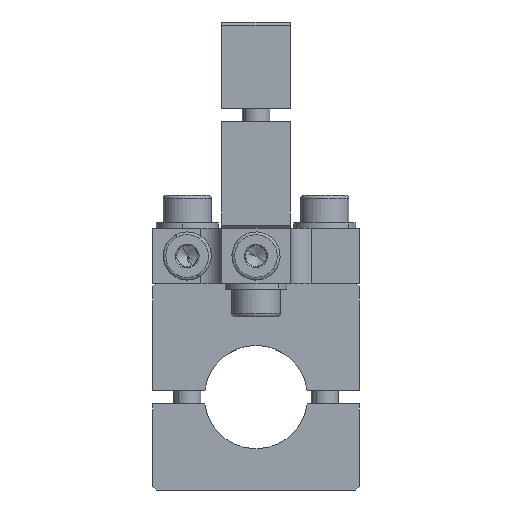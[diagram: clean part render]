
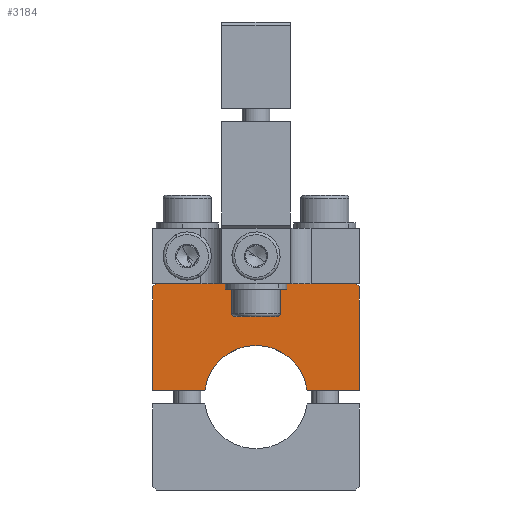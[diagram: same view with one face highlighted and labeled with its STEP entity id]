
A CAD part, front view. The second image highlights one B-rep face of the part: STEP entity #3184.
In plain terms, the highlighted planar face has unit normal (0, -1, 0) as drawn and (0, 0, -1) by its records, which use the part's own axes.
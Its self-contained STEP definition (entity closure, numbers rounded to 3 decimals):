
#8 = CARTESIAN_POINT ( 'NONE',  ( 15., -16., -5. ) ) ;
#31 = DIRECTION ( 'NONE',  ( -1., 0., 0. ) ) ;
#162 = CARTESIAN_POINT ( 'NONE',  ( -7.433, -1., -5. ) ) ;
#174 = DIRECTION ( 'NONE',  ( -0.707, -0.707, 0. ) ) ;
#241 = CARTESIAN_POINT ( 'NONE',  ( 0., 0., -5. ) ) ;
#282 = DIRECTION ( 'NONE',  ( 1., 0., 0. ) ) ;
#306 = DIRECTION ( 'NONE',  ( 0., 0., -1. ) ) ;
#574 = VECTOR ( 'NONE', #31, 1000. ) ;
#608 = AXIS2_PLACEMENT_3D ( 'NONE', #241, #306, #282 ) ;
#960 = AXIS2_PLACEMENT_3D ( 'NONE', #2080, #2071, #2070 ) ;
#1347 = EDGE_CURVE ( 'NONE', #3758, #3886, #4098, .T. ) ;
#1477 = EDGE_CURVE ( 'NONE', #3886, #3612, #2449, .T. ) ;
#1483 = EDGE_CURVE ( 'NONE', #3788, #3864, #4136, .T. ) ;
#1505 = EDGE_CURVE ( 'NONE', #3658, #3758, #4132, .T. ) ;
#1512 = EDGE_CURVE ( 'NONE', #3852, #3864, #4143, .T. ) ;
#1576 = EDGE_CURVE ( 'NONE', #3788, #3658, #4195, .T. ) ;
#1602 = EDGE_CURVE ( 'NONE', #3852, #3797, #4239, .T. ) ;
#1607 = EDGE_CURVE ( 'NONE', #3612, #3797, #4243, .T. ) ;
#1726 = CARTESIAN_POINT ( 'NONE',  ( 15., -1., -5. ) ) ;
#1888 = CARTESIAN_POINT ( 'NONE',  ( -15., -1., -5. ) ) ;
#2070 = DIRECTION ( 'NONE',  ( 1., 0., 0. ) ) ;
#2071 = DIRECTION ( 'NONE',  ( 0., 0., 1. ) ) ;
#2076 = PLANE ( 'NONE',  #960 ) ;
#2080 = CARTESIAN_POINT ( 'NONE',  ( 0., 0., -5. ) ) ;
#2449 = LINE ( 'NONE', #162, #574 ) ;
#2486 = DIRECTION ( 'NONE',  ( -1., 0., 0. ) ) ;
#2565 = DIRECTION ( 'NONE',  ( 0., -1., 0. ) ) ;
#2582 = DIRECTION ( 'NONE',  ( 0., 1., 0. ) ) ;
#2585 = CARTESIAN_POINT ( 'NONE',  ( 15., -1., -5. ) ) ;
#2687 = DIRECTION ( 'NONE',  ( -0.707, 0.707, 0. ) ) ;
#2688 = CARTESIAN_POINT ( 'NONE',  ( -14.5, -16.5, -5. ) ) ;
#2748 = CARTESIAN_POINT ( 'NONE',  ( -15., -1., -5. ) ) ;
#2798 = CARTESIAN_POINT ( 'NONE',  ( -15., -16.5, -5. ) ) ;
#2869 = DIRECTION ( 'NONE',  ( 1., 0., 0. ) ) ;
#2887 = CARTESIAN_POINT ( 'NONE',  ( 7.433, -1., -5. ) ) ;
#3184 = ADVANCED_FACE ( 'NONE', ( #4616 ), #2076, .F. ) ;
#3612 = VERTEX_POINT ( 'NONE', #1888 ) ;
#3658 = VERTEX_POINT ( 'NONE', #1726 ) ;
#3758 = VERTEX_POINT ( 'NONE', #5238 ) ;
#3788 = VERTEX_POINT ( 'NONE', #5232 ) ;
#3797 = VERTEX_POINT ( 'NONE', #5678 ) ;
#3852 = VERTEX_POINT ( 'NONE', #5301 ) ;
#3864 = VERTEX_POINT ( 'NONE', #5243 ) ;
#3886 = VERTEX_POINT ( 'NONE', #5565 ) ;
#4098 = CIRCLE ( 'NONE', #608, 7.5 ) ;
#4130 = VECTOR ( 'NONE', #174, 1000. ) ;
#4132 = LINE ( 'NONE', #2887, #4138 ) ;
#4136 = LINE ( 'NONE', #8, #4130 ) ;
#4137 = VECTOR ( 'NONE', #2869, 1000. ) ;
#4138 = VECTOR ( 'NONE', #2486, 1000. ) ;
#4143 = LINE ( 'NONE', #2798, #4137 ) ;
#4195 = LINE ( 'NONE', #2585, #4201 ) ;
#4201 = VECTOR ( 'NONE', #2582, 1000. ) ;
#4234 = VECTOR ( 'NONE', #2565, 1000. ) ;
#4239 = LINE ( 'NONE', #2688, #4240 ) ;
#4240 = VECTOR ( 'NONE', #2687, 1000. ) ;
#4243 = LINE ( 'NONE', #2748, #4234 ) ;
#4616 = FACE_OUTER_BOUND ( 'NONE', #6185, .T. ) ;
#5232 = CARTESIAN_POINT ( 'NONE',  ( 15., -16., -5. ) ) ;
#5238 = CARTESIAN_POINT ( 'NONE',  ( 7.433, -1., -5. ) ) ;
#5243 = CARTESIAN_POINT ( 'NONE',  ( 14.5, -16.5, -5. ) ) ;
#5301 = CARTESIAN_POINT ( 'NONE',  ( -14.5, -16.5, -5. ) ) ;
#5522 = ORIENTED_EDGE ( 'NONE', *, *, #1347, .F. ) ;
#5530 = ORIENTED_EDGE ( 'NONE', *, *, #1576, .F. ) ;
#5565 = CARTESIAN_POINT ( 'NONE',  ( -7.433, -1., -5. ) ) ;
#5621 = ORIENTED_EDGE ( 'NONE', *, *, #1602, .T. ) ;
#5678 = CARTESIAN_POINT ( 'NONE',  ( -15., -16., -5. ) ) ;
#5985 = ORIENTED_EDGE ( 'NONE', *, *, #1505, .F. ) ;
#6087 = ORIENTED_EDGE ( 'NONE', *, *, #1477, .F. ) ;
#6111 = ORIENTED_EDGE ( 'NONE', *, *, #1607, .F. ) ;
#6133 = ORIENTED_EDGE ( 'NONE', *, *, #1512, .F. ) ;
#6185 = EDGE_LOOP ( 'NONE', ( #5530, #6234, #6133, #5621, #6111, #6087, #5522, #5985 ) ) ;
#6234 = ORIENTED_EDGE ( 'NONE', *, *, #1483, .T. ) ;
